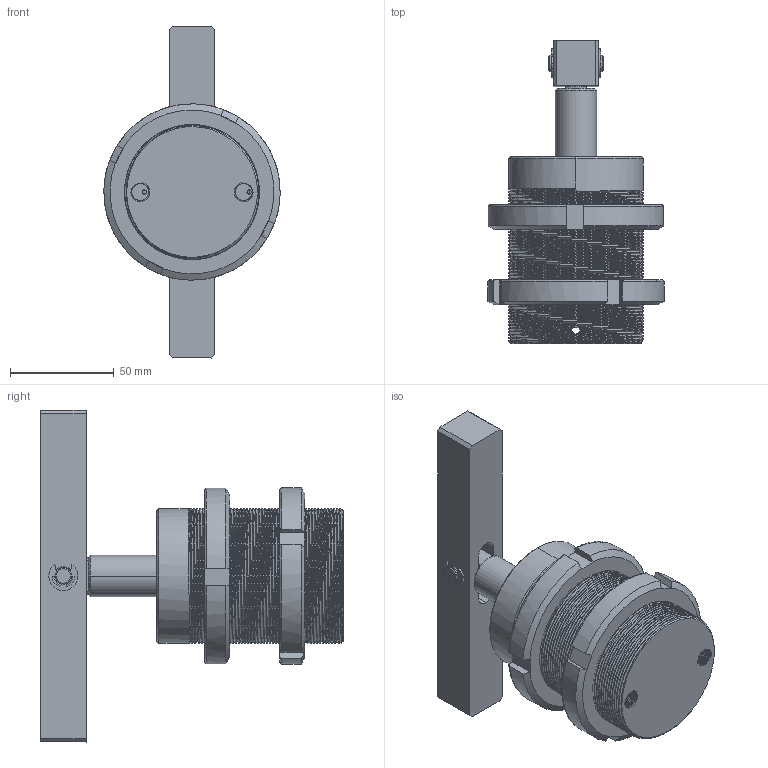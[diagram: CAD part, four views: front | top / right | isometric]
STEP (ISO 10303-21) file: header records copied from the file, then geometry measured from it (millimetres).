
FILE_DESCRIPTION (( 'STEP AP214' ), '1' );
FILE_NAME ('ASC-TB50D-90.STEP', '2023-02-01T03:33:55', ( 'PC' ), ( '' ), 'SwSTEP 2.0', 'SolidWorks 2016', '' );
FILE_SCHEMA (( 'AUTOMOTIVE_DESIGN' ));
Length unit declared in the file: millimetre
Products named in the file (8): ASC-TB50D-90; ASC-TB50LM; ASC-TB50BT; 种隊_2; KKDC_2; 揤旋45512; FA50Dヶ裔; 錨璃34魂偕
Assembly tree (9 placements, depth 2):
  ASC-TB50D-90
    錨璃34魂偕
    FA50Dヶ裔
    揤旋45512
    KKDC_2  x2
    种隊_2
    ASC-TB50BT
    ASC-TB50LM  x2
Bounding box: 84.98 x 146 x 160 mm (x, y, z)
Volume: 359832.2 mm3; surface area: 117352.7 mm2
Topology: 9 solids, 9 shells, 548 faces, 1737 edges, 1216 vertices
Faces by surface type: cylinder 325, plane 94, bspline 89, cone 40
Entity records: 70755 total; most frequent: CARTESIAN_POINT 57029, ORIENTED_EDGE 3040, DIRECTION 1557, EDGE_CURVE 1520, VERTEX_POINT 1062, B_SPLINE_CURVE_WITH_KNOTS 843, AXIS2_PLACEMENT_3D 570, EDGE_LOOP 510
